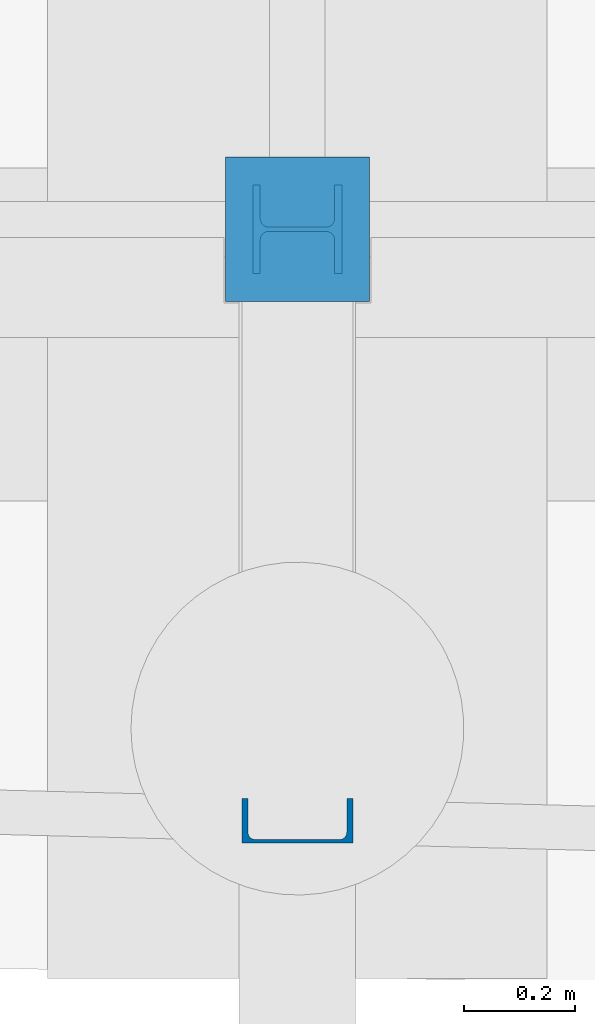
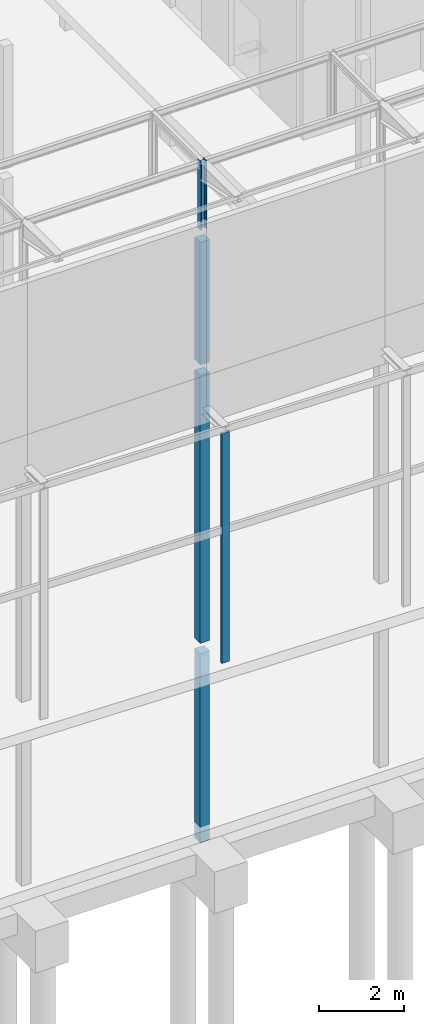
# One storey, part 9 of 82: 5 columns.
"""IFC2X3 building model written with IfcOpenShell, lengths in millimetres."""

from ifc_helpers import new_model, si_unit, frame, frame_2d, origin_with_axes, place, context, subcontext, project, spatial, rectangle, i_section, u_section, extrude, material, type_object, element, save


model = new_model("IFC2X3")

# Units and contexts
model_context = context("Model", 3, precision=1e-05, world=origin_with_axes())
body_context = subcontext(model_context, "Body", "Model", "MODEL_VIEW")
ifc_project = project(units=[si_unit("LENGTHUNIT", "METRE", prefix="MILLI"), si_unit("AREAUNIT", "SQUARE_METRE"), si_unit("VOLUMEUNIT", "CUBIC_METRE"), si_unit("MASSUNIT", "GRAM", prefix="KILO"), si_unit("TIMEUNIT", "SECOND"), si_unit("PLANEANGLEUNIT", "RADIAN"), si_unit("SOLIDANGLEUNIT", "STERADIAN"), si_unit("THERMODYNAMICTEMPERATUREUNIT", "DEGREE_CELSIUS"), si_unit("LUMINOUSINTENSITYUNIT", "LUMEN")], contexts=[model_context])

# Site, building, storey
site_placement = place(None, origin_with_axes())
site = spatial("IfcSite", under=ifc_project, at=site_placement, Name="Undefined", CompositionType="ELEMENT")
building_placement = place(site_placement, origin_with_axes())
building = spatial("IfcBuilding", under=site, at=building_placement, Name="Undefined", CompositionType="ELEMENT")
storey_placement = place(building_placement, origin_with_axes())
storey = spatial("IfcBuildingStorey", under=building, at=storey_placement, Name="Undefined", CompositionType="ELEMENT", Elevation=0.0)

# Columns
ifc_material_1 = material(Name="CONCRETE/C25/30")
column_type_1 = type_object("IfcColumnType", Name="260*260", PredefinedType="NOTDEFINED")
column_1_placement = place(storey_placement, frame((19499.9999999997, -2.03928607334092e-09, 13330.0), z_axis=(0.0, 0.0, 1.0), x_axis=(1.0, 0.0, 0.0)))
element("IfcColumn", 1, at=column_1_placement, inside=storey, type_object=column_type_1, material=ifc_material_1, Name="POTEAU", ObjectType="260*260", context=body_context, shape_type="SweptSolid", body=[
    extrude(rectangle(XDim=260.0, YDim=260.0, at=frame_2d((5.17284206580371e-08, 4.49290382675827e-10), x_axis=(1.0, 0.0))), frame((0.0, 0.0, 3529.99999999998), z_axis=(0.0, -6.50000002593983e-08, -0.999999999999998), x_axis=(-1.0, 0.0, 0.0)), (0.0, 0.0, 1.0), 3530.0),
])
column_2_placement = place(storey_placement, frame((19499.9999999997, -2.03928607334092e-09, 5300.0), z_axis=(0.0, 0.0, 1.0), x_axis=(1.0, 0.0, 0.0)))
element("IfcColumn", 2, at=column_2_placement, inside=storey, type_object=column_type_1, material=ifc_material_1, Name="POTEAU", ObjectType="260*260", context=body_context, shape_type="SweptSolid", body=[
    extrude(rectangle(XDim=260.0, YDim=260.0, at=frame_2d((5.17284206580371e-08, 4.49290382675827e-10), x_axis=(1.0, 0.0))), frame((0.0, 0.0, 7730.0), z_axis=(0.0, -6.50000002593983e-08, -0.999999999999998), x_axis=(-1.0, 0.0, 0.0)), (0.0, 0.0, 1.0), 7730.0),
])
column_3_placement = place(storey_placement, frame((19499.9999999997, -2.03928607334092e-09, -450.0), z_axis=(0.0, 0.0, 1.0), x_axis=(1.0, 0.0, 0.0)))
element("IfcColumn", 3, at=column_3_placement, inside=storey, type_object=column_type_1, material=ifc_material_1, Name="POTEAU", ObjectType="260*260", context=body_context, shape_type="SweptSolid", body=[
    extrude(rectangle(XDim=260.0, YDim=260.0, at=frame_2d((5.17284206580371e-08, 4.49290382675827e-10), x_axis=(1.0, 0.0))), frame((0.0, 0.0, 5450.00000000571), z_axis=(0.0, -6.50000002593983e-08, -0.999999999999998), x_axis=(-1.0, 0.0, 0.0)), (0.0, 0.0, 1.0), 5450.0),
])
ifc_material_2 = material(Name="STEEL/S275JR")
column_type_2 = type_object("IfcColumnType", Name="HEB160", PredefinedType="NOTDEFINED")
column_4_placement = place(storey_placement, frame((19499.9999999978, -4.03876754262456e-08, 17160.0), z_axis=(0.0, 0.0, 1.0), x_axis=(1.0, 0.0, 0.0)))
element("IfcColumn", 4, at=column_4_placement, inside=storey, type_object=column_type_2, material=ifc_material_2, Name="POTEAU", ObjectType="HEB160", context=body_context, shape_type="SweptSolid", body=[
    extrude(i_section(OverallWidth=160.0, OverallDepth=160.0, WebThickness=8.0, FlangeThickness=13.0, FilletRadius=15.0, at=frame_2d((5.17284206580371e-08, 4.49290382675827e-10), x_axis=(1.0, 0.0))), frame((0.0, 0.0, 1965.0), z_axis=(0.0, -6.50000002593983e-08, -0.999999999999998), x_axis=(-2.77555756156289e-17, -1.0, 0.0)), (0.0, 0.0, 1.0), 1965.0),
])
column_type_3 = type_object("IfcColumnType", Name="UPE200", PredefinedType="NOTDEFINED")
column_5_placement = place(storey_placement, frame((19499.9999987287, -1065.94543988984, 5300.00000000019), z_axis=(0.0, 0.0, 1.0), x_axis=(1.0, 0.0, 0.0)))
element("IfcColumn", 5, at=column_5_placement, inside=storey, type_object=column_type_3, material=ifc_material_2, Name="POUTRE", ObjectType="UPE200", context=body_context, shape_type="SweptSolid", body=[
    extrude(u_section(Depth=200.0, FlangeWidth=80.0, WebThickness=6.0, FlangeThickness=11.0, FilletRadius=13.0, at=frame_2d((5.17284206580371e-08, 4.49290382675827e-10), x_axis=(1.0, 0.0))), frame((0.0, 0.0, 6625.00000000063), z_axis=(0.0, -6.50000002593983e-08, -0.999999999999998), x_axis=(0.0, 1.0, 0.0)), (0.0, 0.0, 1.0), 6625.0),
])

save(model, "model.ifc")
